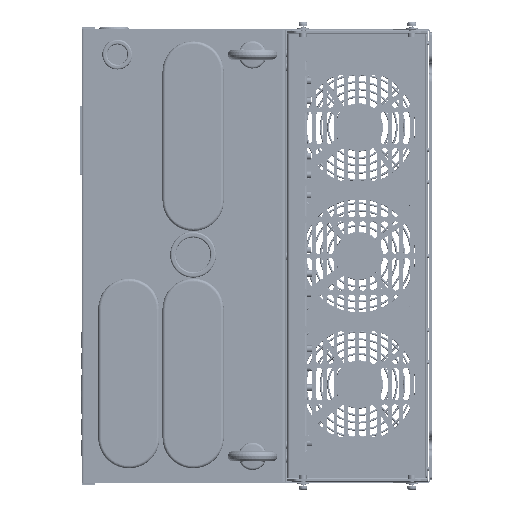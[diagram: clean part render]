
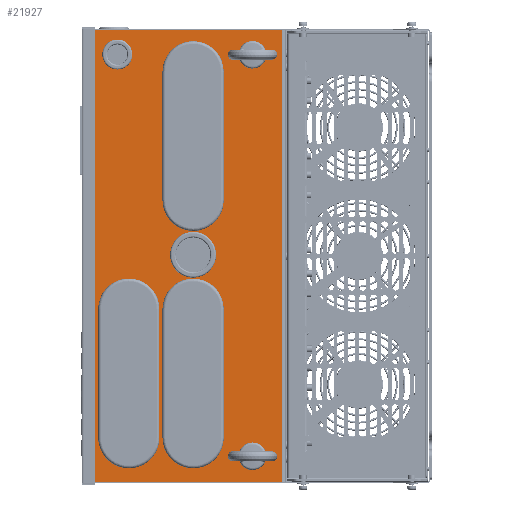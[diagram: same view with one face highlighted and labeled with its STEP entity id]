
A CAD part, left-side view. The second image highlights one B-rep face of the part: STEP entity #21927.
In plain terms, the highlighted planar face has unit normal (-1, 0, 0).
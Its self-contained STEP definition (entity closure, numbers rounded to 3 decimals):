
#18837=DIRECTION('',(0.,0.,1.));
#18838=VECTOR('',#18837,457.);
#18839=CARTESIAN_POINT('',(182.549,9.678,-228.5));
#18840=LINE('',#18839,#18838);
#18863=DIRECTION('',(0.,1.,0.));
#18864=VECTOR('',#18863,199.);
#18865=CARTESIAN_POINT('',(182.549,9.678,228.5));
#18866=LINE('',#18865,#18864);
#18867=DIRECTION('',(0.,-1.,0.));
#18868=VECTOR('',#18867,199.);
#18869=CARTESIAN_POINT('',(182.549,208.678,-228.5));
#18870=LINE('',#18869,#18868);
#18871=DIRECTION('',(0.,0.,1.));
#18872=VECTOR('',#18871,130.);
#18873=CARTESIAN_POINT('',(182.549,125.,-183.75));
#18874=LINE('',#18873,#18872);
#18875=CARTESIAN_POINT('',(182.549,100.,-183.75));
#18876=DIRECTION('',(-1.,0.,0.));
#18877=DIRECTION('',(0.,1.,0.));
#18878=AXIS2_PLACEMENT_3D('',#18875,#18876,#18877);
#18880=DIRECTION('',(0.,0.,-1.));
#18881=VECTOR('',#18880,130.);
#18882=CARTESIAN_POINT('',(182.549,75.,-53.75));
#18883=LINE('',#18882,#18881);
#18884=CARTESIAN_POINT('',(182.549,100.,-53.75));
#18885=DIRECTION('',(-1.,0.,0.));
#18886=DIRECTION('',(0.,-1.,0.));
#18887=AXIS2_PLACEMENT_3D('',#18884,#18885,#18886);
#18889=DIRECTION('',(0.,0.,1.));
#18890=VECTOR('',#18889,130.);
#18891=CARTESIAN_POINT('',(182.549,125.,56.25));
#18892=LINE('',#18891,#18890);
#18893=CARTESIAN_POINT('',(182.549,100.,56.25));
#18894=DIRECTION('',(-1.,0.,0.));
#18895=DIRECTION('',(0.,1.,0.));
#18896=AXIS2_PLACEMENT_3D('',#18893,#18894,#18895);
#18898=DIRECTION('',(0.,0.,-1.));
#18899=VECTOR('',#18898,130.);
#18900=CARTESIAN_POINT('',(182.549,75.,186.25));
#18901=LINE('',#18900,#18899);
#18902=CARTESIAN_POINT('',(182.549,100.,186.25));
#18903=DIRECTION('',(-1.,0.,0.));
#18904=DIRECTION('',(0.,-1.,0.));
#18905=AXIS2_PLACEMENT_3D('',#18902,#18903,#18904);
#18907=CARTESIAN_POINT('',(182.549,165.,-183.75));
#18908=DIRECTION('',(-1.,0.,0.));
#18909=DIRECTION('',(0.,1.,0.));
#18910=AXIS2_PLACEMENT_3D('',#18907,#18908,#18909);
#18912=DIRECTION('',(0.,0.,-1.));
#18913=VECTOR('',#18912,130.);
#18914=CARTESIAN_POINT('',(182.549,140.,-53.75));
#18915=LINE('',#18914,#18913);
#18916=CARTESIAN_POINT('',(182.549,165.,-53.75));
#18917=DIRECTION('',(-1.,0.,0.));
#18918=DIRECTION('',(0.,-1.,0.));
#18919=AXIS2_PLACEMENT_3D('',#18916,#18917,#18918);
#18921=DIRECTION('',(0.,0.,1.));
#18922=VECTOR('',#18921,130.);
#18923=CARTESIAN_POINT('',(182.549,190.,-183.75));
#18924=LINE('',#18923,#18922);
#18925=CARTESIAN_POINT('',(182.549,176.678,203.5));
#18926=DIRECTION('',(-1.,0.,0.));
#18927=DIRECTION('',(0.,1.,0.));
#18928=AXIS2_PLACEMENT_3D('',#18925,#18926,#18927);
#18930=CARTESIAN_POINT('',(182.549,176.678,203.5));
#18931=DIRECTION('',(-1.,0.,0.));
#18932=DIRECTION('',(0.,-1.,0.));
#18933=AXIS2_PLACEMENT_3D('',#18930,#18931,#18932);
#18935=CARTESIAN_POINT('',(182.549,100.,1.25));
#18936=DIRECTION('',(-1.,0.,0.));
#18937=DIRECTION('',(0.,1.,0.));
#18938=AXIS2_PLACEMENT_3D('',#18935,#18936,#18937);
#18940=CARTESIAN_POINT('',(182.549,100.,1.25));
#18941=DIRECTION('',(-1.,0.,0.));
#18942=DIRECTION('',(0.,-1.,0.));
#18943=AXIS2_PLACEMENT_3D('',#18940,#18941,#18942);
#18945=CARTESIAN_POINT('',(182.549,40.,203.));
#18946=DIRECTION('',(-1.,0.,0.));
#18947=DIRECTION('',(0.,1.,0.));
#18948=AXIS2_PLACEMENT_3D('',#18945,#18946,#18947);
#18950=CARTESIAN_POINT('',(182.549,40.,203.));
#18951=DIRECTION('',(-1.,0.,0.));
#18952=DIRECTION('',(0.,-1.,0.));
#18953=AXIS2_PLACEMENT_3D('',#18950,#18951,#18952);
#18955=CARTESIAN_POINT('',(182.549,40.,-203.));
#18956=DIRECTION('',(-1.,0.,0.));
#18957=DIRECTION('',(0.,1.,0.));
#18958=AXIS2_PLACEMENT_3D('',#18955,#18956,#18957);
#18960=CARTESIAN_POINT('',(182.549,40.,-203.));
#18961=DIRECTION('',(-1.,0.,0.));
#18962=DIRECTION('',(0.,-1.,0.));
#18963=AXIS2_PLACEMENT_3D('',#18960,#18961,#18962);
#18983=CARTESIAN_POINT('',(182.549,208.678,228.5));
#18985=DIRECTION('',(0.,0.,1.));
#18986=VECTOR('',#18985,457.);
#18987=CARTESIAN_POINT('',(182.549,208.678,-228.5));
#18988=LINE('',#18987,#18986);
#18995=CARTESIAN_POINT('',(182.549,208.678,-228.5));
#19932=CARTESIAN_POINT('',(182.549,9.678,-228.5));
#19933=CARTESIAN_POINT('',(182.549,9.678,228.5));
#19934=VERTEX_POINT('',#19932);
#19935=VERTEX_POINT('',#19933);
#20152=VERTEX_POINT('',#18983);
#20153=VERTEX_POINT('',#18995);
#20176=CARTESIAN_POINT('',(182.549,125.,-183.75));
#20177=CARTESIAN_POINT('',(182.549,125.,-53.75));
#20178=VERTEX_POINT('',#20176);
#20179=VERTEX_POINT('',#20177);
#20180=CARTESIAN_POINT('',(182.549,75.,-53.75));
#20181=CARTESIAN_POINT('',(182.549,75.,-183.75));
#20182=VERTEX_POINT('',#20180);
#20183=VERTEX_POINT('',#20181);
#20192=CARTESIAN_POINT('',(182.549,125.,56.25));
#20193=CARTESIAN_POINT('',(182.549,125.,186.25));
#20194=VERTEX_POINT('',#20192);
#20195=VERTEX_POINT('',#20193);
#20196=CARTESIAN_POINT('',(182.549,75.,186.25));
#20197=CARTESIAN_POINT('',(182.549,75.,56.25));
#20198=VERTEX_POINT('',#20196);
#20199=VERTEX_POINT('',#20197);
#20224=CARTESIAN_POINT('',(182.549,188.678,203.5));
#20225=CARTESIAN_POINT('',(182.549,164.678,203.5));
#20226=VERTEX_POINT('',#20224);
#20227=VERTEX_POINT('',#20225);
#20288=CARTESIAN_POINT('',(182.549,119.5,1.25));
#20289=CARTESIAN_POINT('',(182.549,80.5,1.25));
#20290=VERTEX_POINT('',#20288);
#20291=VERTEX_POINT('',#20289);
#20456=CARTESIAN_POINT('',(182.549,190.,-183.75));
#20457=CARTESIAN_POINT('',(182.549,140.,-183.75));
#20458=VERTEX_POINT('',#20456);
#20459=VERTEX_POINT('',#20457);
#20460=CARTESIAN_POINT('',(182.549,190.,-53.75));
#20461=VERTEX_POINT('',#20460);
#20462=CARTESIAN_POINT('',(182.549,140.,-53.75));
#20463=VERTEX_POINT('',#20462);
#20504=CARTESIAN_POINT('',(182.549,46.5,203.));
#20505=CARTESIAN_POINT('',(182.549,33.5,203.));
#20506=VERTEX_POINT('',#20504);
#20507=VERTEX_POINT('',#20505);
#20508=CARTESIAN_POINT('',(182.549,46.5,-203.));
#20509=CARTESIAN_POINT('',(182.549,33.5,-203.));
#20510=VERTEX_POINT('',#20508);
#20511=VERTEX_POINT('',#20509);
#21859=CARTESIAN_POINT('',(182.549,6.178,228.5));
#21860=DIRECTION('',(-1.,0.,0.));
#21861=DIRECTION('',(0.,0.,1.));
#21862=AXIS2_PLACEMENT_3D('',#21859,#21860,#21861);
#21863=PLANE('',#21862);
#21865=ORIENTED_EDGE('',*,*,#21864,.F.);
#21866=ORIENTED_EDGE('',*,*,#21846,.F.);
#21868=ORIENTED_EDGE('',*,*,#21867,.F.);
#21870=ORIENTED_EDGE('',*,*,#21869,.T.);
#21871=EDGE_LOOP('',(#21865,#21866,#21868,#21870));
#21872=FACE_OUTER_BOUND('',#21871,.F.);
#21874=ORIENTED_EDGE('',*,*,#21873,.F.);
#21876=ORIENTED_EDGE('',*,*,#21875,.T.);
#21878=ORIENTED_EDGE('',*,*,#21877,.F.);
#21880=ORIENTED_EDGE('',*,*,#21879,.T.);
#21881=EDGE_LOOP('',(#21874,#21876,#21878,#21880));
#21882=FACE_BOUND('',#21881,.F.);
#21884=ORIENTED_EDGE('',*,*,#21883,.F.);
#21886=ORIENTED_EDGE('',*,*,#21885,.T.);
#21888=ORIENTED_EDGE('',*,*,#21887,.F.);
#21890=ORIENTED_EDGE('',*,*,#21889,.T.);
#21891=EDGE_LOOP('',(#21884,#21886,#21888,#21890));
#21892=FACE_BOUND('',#21891,.F.);
#21894=ORIENTED_EDGE('',*,*,#21893,.T.);
#21896=ORIENTED_EDGE('',*,*,#21895,.F.);
#21898=ORIENTED_EDGE('',*,*,#21897,.T.);
#21900=ORIENTED_EDGE('',*,*,#21899,.F.);
#21901=EDGE_LOOP('',(#21894,#21896,#21898,#21900));
#21902=FACE_BOUND('',#21901,.F.);
#21904=ORIENTED_EDGE('',*,*,#21903,.T.);
#21906=ORIENTED_EDGE('',*,*,#21905,.T.);
#21907=EDGE_LOOP('',(#21904,#21906));
#21908=FACE_BOUND('',#21907,.F.);
#21910=ORIENTED_EDGE('',*,*,#21909,.T.);
#21912=ORIENTED_EDGE('',*,*,#21911,.T.);
#21913=EDGE_LOOP('',(#21910,#21912));
#21914=FACE_BOUND('',#21913,.F.);
#21916=ORIENTED_EDGE('',*,*,#21915,.T.);
#21918=ORIENTED_EDGE('',*,*,#21917,.T.);
#21919=EDGE_LOOP('',(#21916,#21918));
#21920=FACE_BOUND('',#21919,.F.);
#21922=ORIENTED_EDGE('',*,*,#21921,.T.);
#21924=ORIENTED_EDGE('',*,*,#21923,.T.);
#21925=EDGE_LOOP('',(#21922,#21924));
#21926=FACE_BOUND('',#21925,.F.);
#21927=ADVANCED_FACE('',(#21872,#21882,#21892,#21902,#21908,#21914,#21920,
#21926),#21863,.T.);
#18879=CIRCLE('',#18878,25.);
#18888=CIRCLE('',#18887,25.);
#18897=CIRCLE('',#18896,25.);
#18906=CIRCLE('',#18905,25.);
#18911=CIRCLE('',#18910,25.);
#18920=CIRCLE('',#18919,25.);
#18929=CIRCLE('',#18928,12.);
#18934=CIRCLE('',#18933,12.);
#18939=CIRCLE('',#18938,19.5);
#18944=CIRCLE('',#18943,19.5);
#18949=CIRCLE('',#18948,6.5);
#18954=CIRCLE('',#18953,6.5);
#18959=CIRCLE('',#18958,6.5);
#18964=CIRCLE('',#18963,6.5);
#21846=EDGE_CURVE('',#19934,#19935,#18840,.T.);
#21864=EDGE_CURVE('',#19935,#20152,#18866,.T.);
#21867=EDGE_CURVE('',#20153,#19934,#18870,.T.);
#21869=EDGE_CURVE('',#20153,#20152,#18988,.T.);
#21873=EDGE_CURVE('',#20178,#20179,#18874,.T.);
#21875=EDGE_CURVE('',#20178,#20183,#18879,.T.);
#21877=EDGE_CURVE('',#20182,#20183,#18883,.T.);
#21879=EDGE_CURVE('',#20182,#20179,#18888,.T.);
#21883=EDGE_CURVE('',#20194,#20195,#18892,.T.);
#21885=EDGE_CURVE('',#20194,#20199,#18897,.T.);
#21887=EDGE_CURVE('',#20198,#20199,#18901,.T.);
#21889=EDGE_CURVE('',#20198,#20195,#18906,.T.);
#21893=EDGE_CURVE('',#20458,#20459,#18911,.T.);
#21895=EDGE_CURVE('',#20463,#20459,#18915,.T.);
#21897=EDGE_CURVE('',#20463,#20461,#18920,.T.);
#21899=EDGE_CURVE('',#20458,#20461,#18924,.T.);
#21903=EDGE_CURVE('',#20226,#20227,#18929,.T.);
#21905=EDGE_CURVE('',#20227,#20226,#18934,.T.);
#21909=EDGE_CURVE('',#20290,#20291,#18939,.T.);
#21911=EDGE_CURVE('',#20291,#20290,#18944,.T.);
#21915=EDGE_CURVE('',#20506,#20507,#18949,.T.);
#21917=EDGE_CURVE('',#20507,#20506,#18954,.T.);
#21921=EDGE_CURVE('',#20510,#20511,#18959,.T.);
#21923=EDGE_CURVE('',#20511,#20510,#18964,.T.);
